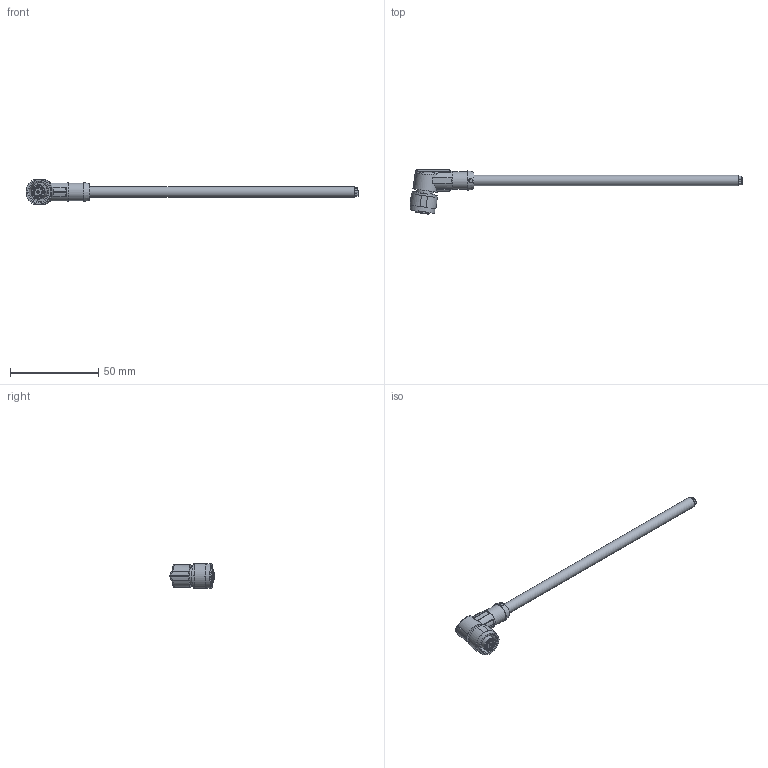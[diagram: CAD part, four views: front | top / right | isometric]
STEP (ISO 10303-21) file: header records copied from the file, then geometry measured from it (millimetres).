
FILE_DESCRIPTION( ( 'Unknown' ), '1' );
FILE_NAME( 'U:/PCR/Kabel Phoenix/WI1000_M12F8VxxN.stp', 'Unknown', ( 'Unknown' ), ( 'Unknown' ), 'PSStep 11.0', 'Unknown', ' ' );
FILE_SCHEMA( ( 'AUTOMOTIVE_DESIGN { 1 0 10303 214 1 1 1 1 }' ) );
Length unit declared in the file: millimetre
Products named in the file (1): 1522642
Bounding box: 188.16 x 25.15 x 14.4 mm (x, y, z)
Volume: 8802.1 mm3; surface area: 5613.7 mm2
Topology: 1 solids, 1 shells, 145 faces, 320 edges, 210 vertices
Faces by surface type: plane 63, cylinder 50, cone 15, torus 8, bspline 7, extrusion 2
Full cylindrical faces by diameter (mm): 0.9 x8, 1.17 x8, 5.9 x1, 9.3 x1, 10 x1, 10.5 x1, 10.6 x1, 11 x1, 12.2 x1, 14 x2
Entity records: 9027 total; most frequent: CARTESIAN_POINT 4823, DIRECTION 618, ORIENTED_EDGE 556, EDGE_CURVE 278, AXIS2_PLACEMENT_3D 260, EDGE_LOOP 218, VERTEX_POINT 208, FACE_OUTER_BOUND 170
